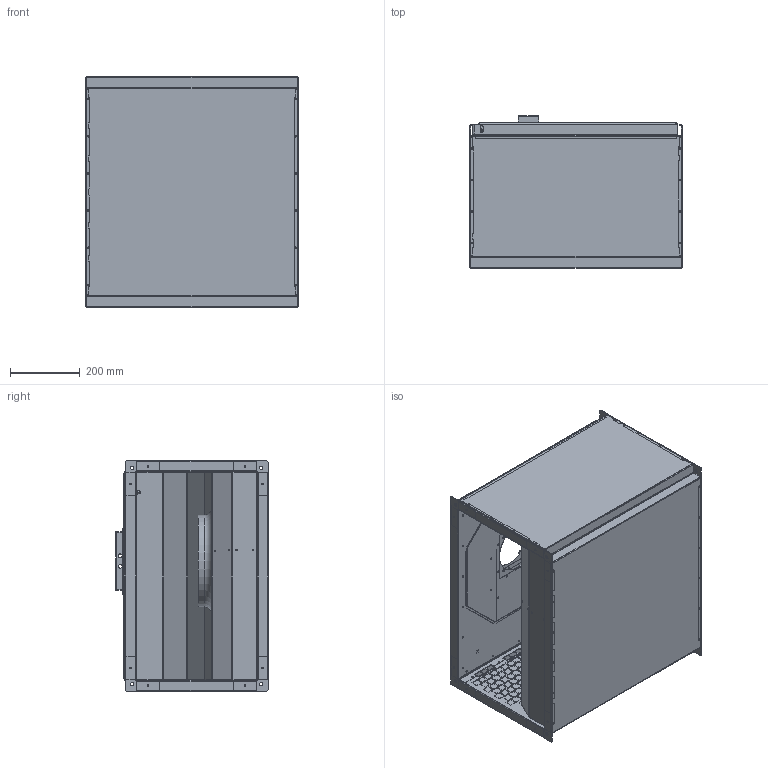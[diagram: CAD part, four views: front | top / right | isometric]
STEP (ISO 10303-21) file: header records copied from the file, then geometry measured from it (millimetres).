
FILE_DESCRIPTION (( 'STEP AP203' ), '1' );
FILE_NAME ('131440-00_KVRI06035EC31.STEP', '2015-05-11T12:30:02', ( '' ), ( '' ), 'SwSTEP 2.0', 'SolidWorks 2012', '' );
FILE_SCHEMA (( 'CONFIG_CONTROL_DESIGN' ));
Products named in the file (1): 131440-00_KVRI06035EC31
Bounding box: 610 x 438.2 x 662 mm (x, y, z)
Surface area: 5567142.2 mm2 (no closed solid volume)
Topology: 0 solids, 51 shells, 1801 faces, 14862 edges, 12533 vertices
Faces by surface type: plane 1301, cylinder 475, bspline 17, torus 6, cone 2
Entity records: 141853 total; most frequent: CARTESIAN_POINT 30556, DIRECTION 20189, ORIENTED_EDGE 18805, EDGE_CURVE 14862, LINE 12917, VECTOR 12917, VERTEX_POINT 12533, EDGE_LOOP 4880
